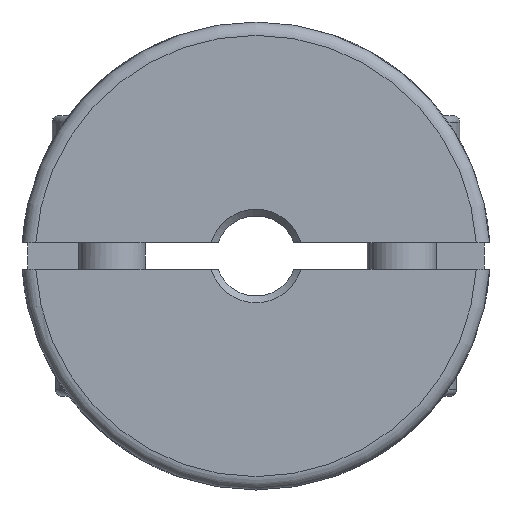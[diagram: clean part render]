
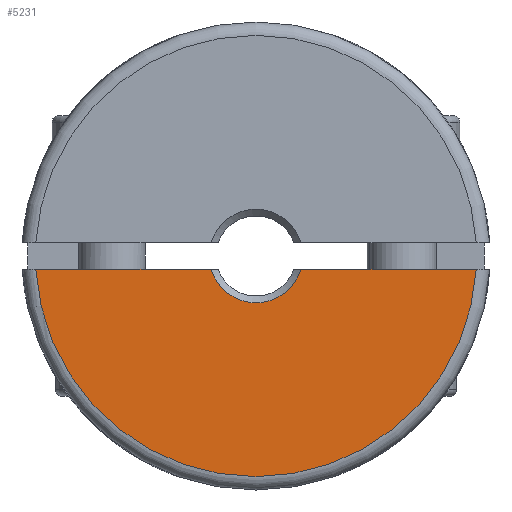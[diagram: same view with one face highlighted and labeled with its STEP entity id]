
A CAD part, left-side view. The second image highlights one B-rep face of the part: STEP entity #5231.
In plain terms, the highlighted planar face has unit normal (-1, 0, 0).
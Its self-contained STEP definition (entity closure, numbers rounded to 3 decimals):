
#127=LINE('',#8311,#303);
#138=LINE('',#8348,#314);
#303=VECTOR('',#6575,1000.);
#314=VECTOR('',#6608,1000.);
#544=PLANE('',#5665);
#1333=ORIENTED_EDGE('',*,*,#1949,.F.);
#1334=ORIENTED_EDGE('',*,*,#1857,.T.);
#1335=ORIENTED_EDGE('',*,*,#1968,.F.);
#1336=ORIENTED_EDGE('',*,*,#1932,.F.);
#1857=EDGE_CURVE('',#2267,#2265,#2547,.T.);
#1932=EDGE_CURVE('',#2333,#2331,#2580,.T.);
#1949=EDGE_CURVE('',#2267,#2333,#127,.T.);
#1968=EDGE_CURVE('',#2331,#2265,#138,.T.);
#2265=VERTEX_POINT('',#7804);
#2267=VERTEX_POINT('',#7807);
#2331=VERTEX_POINT('',#8136);
#2333=VERTEX_POINT('',#8143);
#2547=CIRCLE('',#5580,16.5);
#2580=CIRCLE('',#5632,3.5);
#2907=EDGE_LOOP('',(#1333,#1334,#1335,#1336));
#3263=FACE_BOUND('',#2907,.T.);
#5231=ADVANCED_FACE('',(#3263),#544,.T.);
#5580=AXIS2_PLACEMENT_3D('',#7806,#6416,#6417);
#5632=AXIS2_PLACEMENT_3D('',#8144,#6540,#6541);
#5665=AXIS2_PLACEMENT_3D('',#8357,#6622,#6623);
#6416=DIRECTION('',(-1.,0.,0.));
#6417=DIRECTION('',(0.,0.,-1.));
#6540=DIRECTION('',(-1.,0.,0.));
#6541=DIRECTION('',(0.,0.,-1.));
#6575=DIRECTION('',(0.,-1.,0.));
#6608=DIRECTION('',(0.,-1.,0.));
#6622=DIRECTION('',(-1.,0.,0.));
#6623=DIRECTION('',(0.,0.,-1.));
#7804=CARTESIAN_POINT('',(-14.85,-16.47,-1.));
#7806=CARTESIAN_POINT('',(-14.85,0.,0.));
#7807=CARTESIAN_POINT('',(-14.85,16.47,-1.));
#8136=CARTESIAN_POINT('',(-14.85,-3.354,-1.));
#8143=CARTESIAN_POINT('',(-14.85,3.354,-1.));
#8144=CARTESIAN_POINT('',(-14.85,0.,0.));
#8311=CARTESIAN_POINT('',(-14.85,0.,-1.));
#8348=CARTESIAN_POINT('',(-14.85,0.,-1.));
#8357=CARTESIAN_POINT('',(-14.85,0.,3.));
